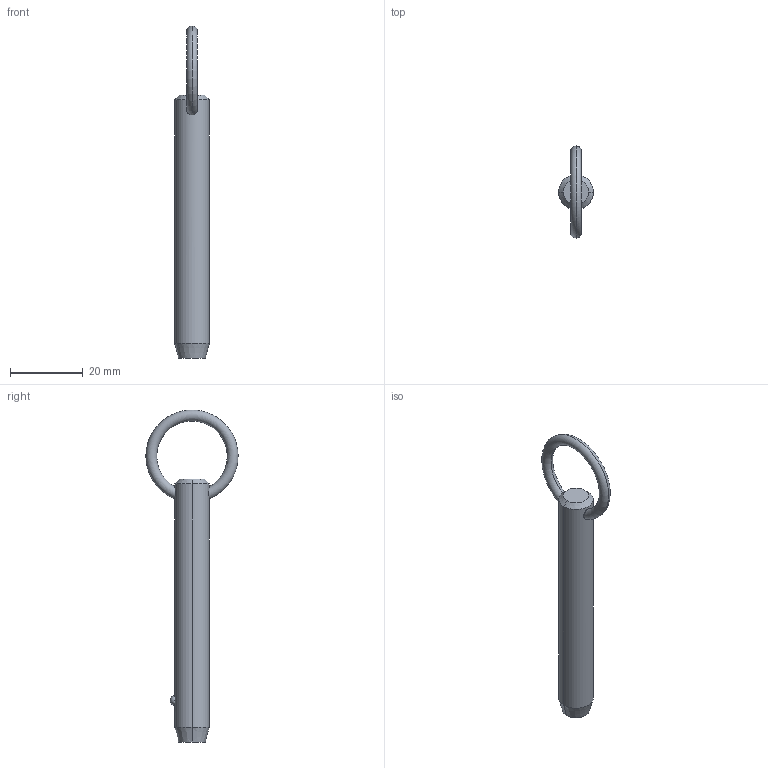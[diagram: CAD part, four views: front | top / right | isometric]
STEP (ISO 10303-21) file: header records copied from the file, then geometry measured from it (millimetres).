
FILE_DESCRIPTION (( 'STEP AP203' ), '1' );
FILE_NAME ('P1250.037-210.step', '2019-07-29T20:01:41', ( '' ), ( '' ), 'SwSTEP 2.0', 'SolidWorks 2017', '' );
FILE_SCHEMA (( 'CONFIG_CONTROL_DESIGN' ));
Length unit declared in the file: millimetre
Products named in the file (1): P1250.037-210
Bounding box: 9.52 x 25.39 x 91.4 mm (x, y, z)
Volume: 5501.1 mm3; surface area: 2806 mm2
Topology: 1 solids, 1 shells, 12 faces, 28 edges, 17 vertices
Faces by surface type: cone 4, torus 2, sphere 2, cylinder 2, plane 2
Entity records: 523 total; most frequent: CARTESIAN_POINT 190, DIRECTION 56, ORIENTED_EDGE 48, AXIS2_PLACEMENT_3D 25, EDGE_CURVE 24, VERTEX_POINT 15, EDGE_LOOP 15, FACE_OUTER_BOUND 12
